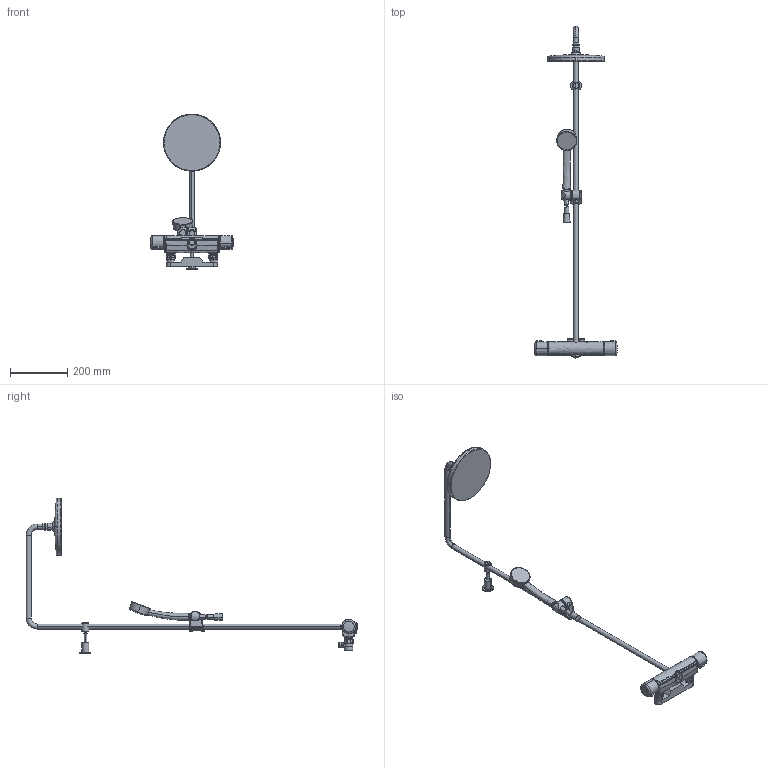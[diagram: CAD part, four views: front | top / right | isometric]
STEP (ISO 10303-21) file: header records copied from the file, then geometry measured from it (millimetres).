
FILE_DESCRIPTION (( 'STEP AP203' ), '1' );
FILE_NAME ('7418G(2022).STEP', '2022-03-03T13:10:07', ( '' ), ( '' ), 'SwSTEP 2.0', 'SolidWorks 2016', '' );
FILE_SCHEMA (( 'CONFIG_CONTROL_DESIGN' ));
Products named in the file (1): 7418G(2022)
Bounding box: 289.61 x 1162.4 x 545.7 mm (x, y, z)
Volume: 1867588.7 mm3; surface area: 372173.1 mm2
Topology: 25 solids, 25 shells, 876 faces, 2012 edges, 1202 vertices
Faces by surface type: bspline 319, cylinder 202, plane 163, torus 83, cone 77, sphere 32
Entity records: 60606 total; most frequent: CARTESIAN_POINT 43506, ORIENTED_EDGE 3992, DIRECTION 2923, EDGE_CURVE 1996, AXIS2_PLACEMENT_3D 1267, VERTEX_POINT 1202, EDGE_LOOP 910, ADVANCED_FACE 876
